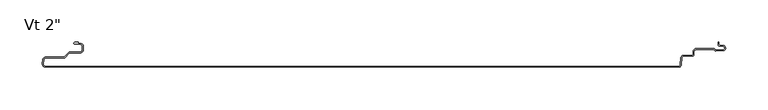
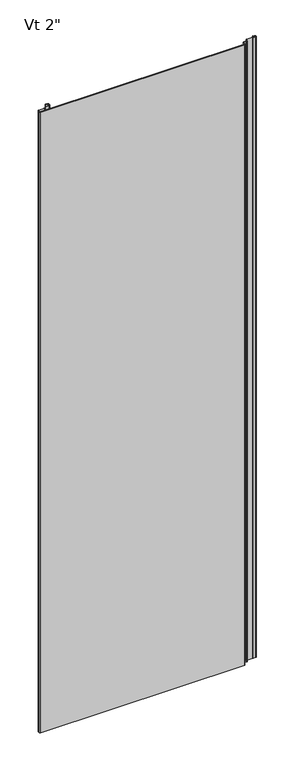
"""IFC4 building model written with IfcOpenShell, lengths in millimetres: plate geometry."""

from ifc_helpers import new_model, si_unit, point, frame_2d, origin, origin_with_axes, place, context, project, spatial, polyline, circle_curve, trimmed, segment, composite_curve, outline, extrude, source, transform, mapped, element, save


def plate_7721d9ad(model_context):
    return source(origin(), model_context, "Body", "SweptSolid", [
        extrude(outline(composite_curve([segment(polyline([(-417.0087549, -46.9184064), (-416.5690675, -41.894441)]), True, "CONTINUOUS"), segment(trimmed(circle_curve(frame_2d((-412.9198392, -42.5052421)), 3.6999926), [point((-416.5690675, -41.894441))], [point((-412.9198392, -38.8052495))], False, "CARTESIAN"), True, "CONTINUOUS"), segment(polyline([(-412.9198392, -38.8052495), (-391.7773997, -38.8052495)]), True, "CONTINUOUS"), segment(trimmed(circle_curve(frame_2d((-391.7773997, -37.5052521)), 1.2999974), [point((-391.7773997, -38.8052495))], [point((-390.8581627, -38.4244891))], True, "CARTESIAN"), True, "CONTINUOUS"), segment(polyline([(-390.8581627, -38.4244891), (-386.0297453, -33.5960716)]), True, "CONTINUOUS"), segment(trimmed(circle_curve(frame_2d((-384.1205608, -35.5052561)), 2.6999946), [point((-386.0297453, -33.5960716))], [point((-384.1205608, -32.8052615))], False, "CARTESIAN"), True, "CONTINUOUS"), segment(polyline([(-384.1205608, -32.8052615), (-372.3096717, -32.8052615)]), True, "CONTINUOUS"), segment(trimmed(circle_curve(frame_2d((-372.3096717, -30.4552662)), 2.3499953), [point((-372.3096717, -32.8052615))], [point((-369.9596764, -30.4552662))], True, "CARTESIAN"), True, "CONTINUOUS"), segment(polyline([(-369.9596764, -30.4552662), (-369.9596764, -26.055275)]), True, "CONTINUOUS"), segment(trimmed(circle_curve(frame_2d((-372.3096717, -26.055275)), 2.3499953), [point((-369.9596764, -26.055275))], [point((-372.3096717, -23.7052797))], True, "CARTESIAN"), True, "CONTINUOUS"), segment(polyline([(-372.3096717, -23.7052797), (-378.8289779, -23.7052797)]), True, "CONTINUOUS"), segment(trimmed(circle_curve(frame_2d((-378.7686908, -22.5067974)), 1.1999976), [point((-378.8289779, -23.7052797))], [point((-379.9683001, -22.4762755))], False, "CARTESIAN"), True, "CONTINUOUS"), segment(trimmed(circle_curve(frame_2d((-378.7686908, -22.5067974)), 1.1999976), [point((-379.9683001, -22.4762755))], [point((-378.7671761, -21.3068008))], False, "CARTESIAN"), True, "CONTINUOUS"), segment(polyline([(-378.7671761, -21.3068008), (-375.0087827, -21.3068008), (-375.0087827, -22.7052797), (-372.3096717, -22.7052797)]), True, "CONTINUOUS"), segment(trimmed(circle_curve(frame_2d((-372.3096717, -26.055275)), 3.3499953), [point((-372.3096717, -22.7052797))], [point((-368.9596764, -26.055275))], False, "CARTESIAN"), True, "CONTINUOUS"), segment(polyline([(-368.9596764, -26.055275), (-368.9596764, -30.4552662)]), True, "CONTINUOUS"), segment(trimmed(circle_curve(frame_2d((-372.3096717, -30.4552662)), 3.3499953), [point((-368.9596764, -30.4552662))], [point((-372.3096717, -33.8052615))], False, "CARTESIAN"), True, "CONTINUOUS"), segment(polyline([(-372.3096717, -33.8052615), (-384.1205608, -33.8052615)]), True, "CONTINUOUS"), segment(trimmed(circle_curve(frame_2d((-384.1205608, -35.5052561)), 1.6999946), [point((-384.1205608, -33.8052615))], [point((-385.3226385, -34.3031784))], True, "CARTESIAN"), True, "CONTINUOUS"), segment(polyline([(-385.3226385, -34.3031784), (-390.8247096, -39.8052495), (-412.9198392, -39.8052495)]), True, "CONTINUOUS"), segment(trimmed(circle_curve(frame_2d((-412.9198392, -42.5052421)), 2.6999926), [point((-412.9198392, -39.8052495))], [point((-415.5765709, -42.0238515))], True, "CARTESIAN"), True, "CONTINUOUS"), segment(polyline([(-415.5765709, -42.0238515), (-416.0125699, -47.0056723)]), True, "CONTINUOUS"), segment(trimmed(circle_curve(frame_2d((-413.4521176, -47.229758)), 2.5702393), [point((-416.0125699, -47.0056723))], [point((-413.509446, -49.7993578))], True, "CARTESIAN"), True, "CONTINUOUS"), segment(polyline([(-413.509446, -49.7993578), (332.5384359, -49.7993578)]), True, "CONTINUOUS"), segment(trimmed(circle_curve(frame_2d((332.5384359, -47.8493637)), 1.9499941), [point((332.5384359, -49.7993578))], [point((334.4810097, -48.0193169))], True, "CARTESIAN"), True, "CONTINUOUS"), segment(polyline([(334.4810097, -48.0193169), (335.2215397, -39.5550205)]), True, "CONTINUOUS"), segment(trimmed(circle_curve(frame_2d((338.2400056, -39.819102)), 3.0299959), [point((335.2215397, -39.5550205))], [point((338.3657441, -36.7917162))], False, "CARTESIAN"), True, "CONTINUOUS"), segment(polyline([(338.3657441, -36.7917162), (348.4586765, -36.7917162)]), True, "CONTINUOUS"), segment(trimmed(circle_curve(frame_2d((348.4595944, -35.8425632)), 0.9491534), [point((348.4586765, -36.7917162))], [point((349.4087478, -35.8425632))], True, "CARTESIAN"), True, "CONTINUOUS"), segment(polyline([(349.4087478, -35.8425632), (349.4087475, -32.7011631)]), True, "CONTINUOUS"), segment(trimmed(circle_curve(frame_2d((353.4087415, -32.7011631)), 3.999994), [point((349.4087475, -32.7011631))], [point((353.4087415, -28.7011691))], False, "CARTESIAN"), True, "CONTINUOUS"), segment(polyline([(353.4087415, -28.7011691), (374.5895515, -28.7011691), (375.7334028, -30.6823775), (384.706811, -30.3271172)]), True, "CONTINUOUS"), segment(trimmed(circle_curve(frame_2d((384.6236622, -28.2268886)), 2.1018739), [point((384.706811, -30.3271172))], [point((384.7037148, -26.1265397))], True, "CARTESIAN"), True, "CONTINUOUS"), segment(polyline([(384.7037148, -26.1265397), (380.6977997, -25.8821247)]), True, "CONTINUOUS"), segment(trimmed(circle_curve(frame_2d((380.8099653, -24.0437512)), 1.8417922), [point((380.6977997, -25.8821247))], [point((378.9686884, -24.0873122))], False, "CARTESIAN"), True, "CONTINUOUS"), segment(polyline([(378.9686884, -24.0873122), (378.9686884, -21.3027656), (379.9686884, -21.3027656), (379.9686884, -24.0731984)]), True, "CONTINUOUS"), segment(trimmed(circle_curve(frame_2d((380.8099653, -24.0437512)), 0.8417922), [point((379.9686884, -24.0731984))], [point((380.7587, -24.8839809))], True, "CARTESIAN"), True, "CONTINUOUS"), segment(polyline([(380.7587, -24.8839809), (384.7543204, -25.1277677)]), True, "CONTINUOUS"), segment(trimmed(circle_curve(frame_2d((384.6236622, -28.2268886)), 3.1018739), [point((384.7543204, -25.1277677))], [point((384.7463704, -31.3263344))], False, "CARTESIAN"), True, "CONTINUOUS"), segment(polyline([(384.7463704, -31.3263344), (376.0344401, -31.6712428)]), True, "CONTINUOUS"), segment(trimmed(circle_curve(frame_2d((375.987224, -30.2220146)), 1.4499971), [point((376.0344401, -31.6712428))], [point((374.7314897, -30.9470132))], False, "CARTESIAN"), True, "CONTINUOUS"), segment(polyline([(374.7314897, -30.9470132), (374.0122013, -29.7011691), (353.4087415, -29.7011691)]), True, "CONTINUOUS"), segment(trimmed(circle_curve(frame_2d((353.4087415, -32.7011631)), 2.999994), [point((353.4087415, -29.7011691))], [point((350.4087475, -32.7011631))], True, "CARTESIAN"), True, "CONTINUOUS"), segment(polyline([(350.4087475, -32.7011631), (350.4087475, -35.8425632)]), True, "CONTINUOUS"), segment(trimmed(circle_curve(frame_2d((348.4595944, -35.8425632)), 1.9491534), [point((350.4087475, -35.8425632))], [point((348.458279, -37.7917162))], False, "CARTESIAN"), True, "CONTINUOUS"), segment(polyline([(348.458279, -37.7917162), (338.3429135, -37.7917162)]), True, "CONTINUOUS"), segment(trimmed(circle_curve(frame_2d((338.2400056, -39.819102)), 2.0299959), [point((338.3429135, -37.7917162))], [point((336.2177344, -39.6421762))], True, "CARTESIAN"), True, "CONTINUOUS"), segment(polyline([(336.2177344, -39.6421762), (335.4771973, -48.1065539)]), True, "CONTINUOUS"), segment(trimmed(circle_curve(frame_2d((332.5384288, -47.849445)), 2.9499941), [point((335.4771973, -48.1065539))], [point((332.5384307, -50.7994391))], False, "CARTESIAN"), True, "CONTINUOUS"), segment(polyline([(332.5384307, -50.7994391), (-413.4521083, -50.7999161)]), True, "CONTINUOUS"), segment(trimmed(circle_curve(frame_2d((-413.4521105, -47.2296768)), 3.5702393), [point((-413.4521083, -50.7999161))], [point((-417.0087549, -46.9184064))], False, "CARTESIAN"), True, "CONTINUOUS")], self_intersect=False)), origin_with_axes(), (0.0, 0.0, 1.0), 2400.0),
    ])


if __name__ == "__main__":
    model = new_model("IFC4")
    model_context = context("Model", 3, world=origin())
    ifc_project = project(units=[si_unit("LENGTHUNIT", "METRE", prefix="MILLI")], contexts=[model_context])
    site = spatial("IfcSite", under=ifc_project)
    building = spatial("IfcBuilding", under=site)
    placement = place(None, origin())
    plate_shape = plate_7721d9ad(model_context)
    element("IfcPlate", 1, ObjectType="KIP-30-Karrier-KP-R19-CP-Vt-FL3-8_SL : Vt 2\"", at=placement, inside=building, context=model_context, shape_type="MappedRepresentation", body=[
        mapped(plate_shape, transform((0.0, 0.0, 0.0), x_axis=(1.0, 0.0, 0.0), y_axis=(0.0, 1.0, 0.0), z_axis=(0.0, 0.0, 1.0))),
    ])
    save(model, "model.ifc")
